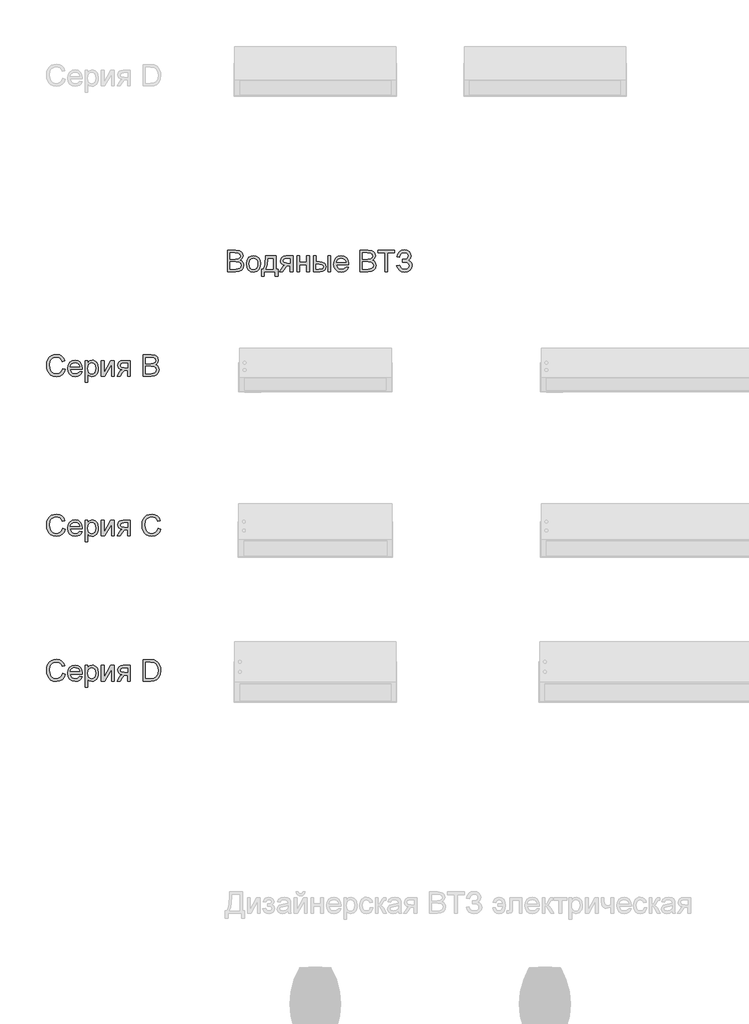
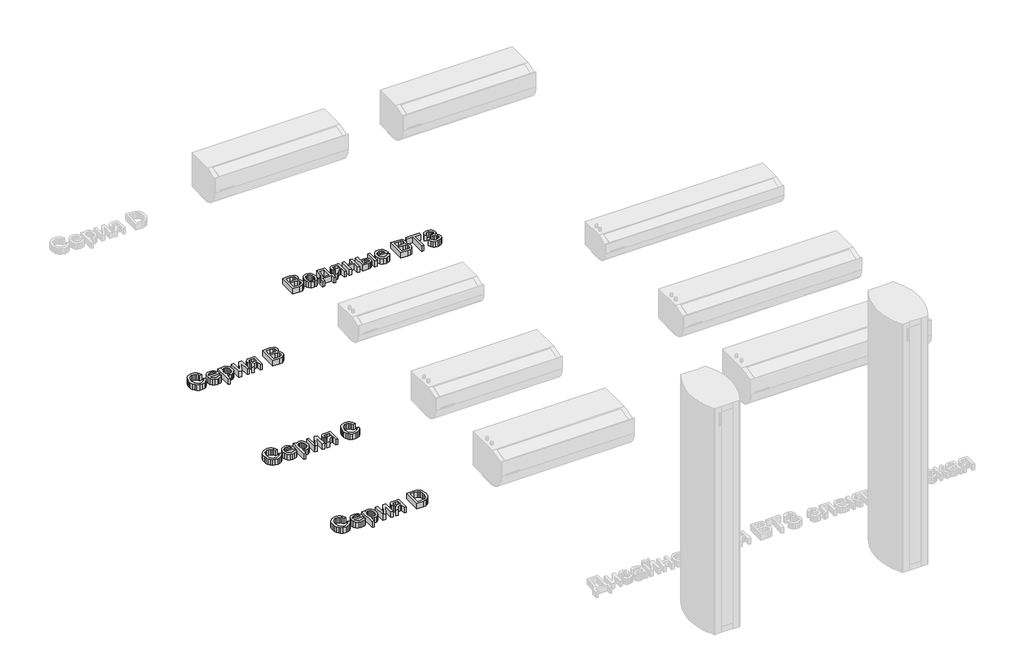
# One storey, part 5 of 6: 4 proxies.
"""IFC4 building model written with IfcOpenShell, lengths in millimetres."""

from ifc_helpers import new_model, si_unit, origin, origin_with_axes, place, context, project, spatial, polyline, outline, extrude, element, save

model = new_model("IFC4")

# Units and contexts
model_context = context("Model", 3, world=origin())
ifc_project = project(units=[si_unit("LENGTHUNIT", "METRE", prefix="MILLI")], contexts=[model_context])

# Site, building, storey
site = spatial("IfcSite", under=ifc_project)
building = spatial("IfcBuilding", under=site)
storey = spatial("IfcBuildingStorey", under=building, Name="Уровень 1", Elevation=0.0)

# Proxies
placement = place(None, origin())
element("IfcBuildingElementProxy", 1, Name="600 мм Arial", ObjectType="600 мм Arial", at=placement, inside=storey, context=model_context, shape_type="SweptSolid", body=[
    extrude(outline(polyline([(-13742.0854983, 3068.9151555), (-13742.0854983, 3216.6074632), (-13685.7273253, 3216.6074632), (-13658.1251618, 3212.2625113), (-13648.8493205, 3206.7501915), (-13641.8270849, 3198.9031363), (-13635.9316522, 3180.0089055), (-13640.8895849, 3162.7552997), (-13655.871556, 3149.6843863), (-13645.4103181, 3144.2216459), (-13637.6804503, 3135.9103478), (-13632.9073133, 3125.3003718), (-13631.3162676, 3112.9415978), (-13635.6612195, 3093.0918382), (-13646.4244407, 3078.9572228), (-13662.4881426, 3071.4572228), (-13686.1600176, 3068.9151555), (-13742.0854983, 3068.9151555)]), holes=[polyline([(-13723.6239599, 3156.6074632), (-13689.9100176, 3156.6074632), (-13670.2225176, 3158.1940016), (-13658.3775657, 3165.0269343), (-13654.3931907, 3177.0521747), (-13658.107133, 3189.0954439), (-13668.7441522, 3196.2168382), (-13692.4701137, 3198.1459247), (-13723.6239599, 3198.1459247), (-13723.6239599, 3156.6074632)]), polyline([(-13723.6239599, 3087.3766939), (-13685.763383, 3087.3766939), (-13672.0614599, 3088.0978478), (-13660.4689118, 3092.1182805), (-13652.7886233, 3100.3214055), (-13649.777806, 3112.7613093), (-13653.3114599, 3127.1122709), (-13664.7597772, 3135.6759728), (-13687.5662676, 3138.1459247), (-13723.6239599, 3138.1459247), (-13723.6239599, 3087.3766939)])]), origin_with_axes(), (0.0, 0.0, 1.0), 50.0),
    extrude(outline(polyline([(-13612.8547291, 3123.1459247), (-13608.8613397, 3149.2967661), (-13596.8811714, 3167.6771747), (-13582.0794887, 3176.6825834), (-13564.357133, 3179.6843863), (-13544.9626017, 3176.0290377), (-13529.4713157, 3165.062992), (-13519.3165681, 3147.6516338), (-13515.9316522, 3124.6603478), (-13517.4280464, 3106.0095064), (-13521.9172291, 3091.8117901), (-13529.2684911, 3081.1792781), (-13539.3511233, 3073.2240497), (-13551.3267844, 3068.2616098), (-13564.357133, 3066.6074632), (-13583.9860392, 3070.2492901), (-13599.4592964, 3081.1747709), (-13609.5058709, 3098.9512132), (-13612.8547291, 3123.1459247)]), holes=[polyline([(-13594.3931907, 3123.1819824), (-13592.2567724, 3106.4737492), (-13585.8475176, 3094.5702036), (-13576.2020849, 3087.4443021), (-13564.357133, 3085.0690016), (-13552.5662676, 3087.4578238), (-13542.9388637, 3094.6242901), (-13536.5296089, 3106.6855882), (-13534.3931907, 3123.7589055), (-13536.5431306, 3139.9803598), (-13542.9929503, 3151.7216459), (-13552.6338758, 3158.8475473), (-13564.357133, 3161.2228478), (-13576.2020849, 3158.8565617), (-13585.8475176, 3151.7577036), (-13592.2567724, 3139.8812012), (-13594.3931907, 3123.1819824)])]), origin_with_axes(), (0.0, 0.0, 1.0), 50.0),
    extrude(outline(polyline([(-13479.0085753, 3177.3766939), (-13409.777806, 3177.3766939), (-13409.777806, 3087.3766939), (-13395.9316522, 3087.3766939), (-13395.9316522, 3038.9151555), (-13414.3931907, 3038.9151555), (-13414.3931907, 3068.9151555), (-13490.5470368, 3068.9151555), (-13490.5470368, 3038.9151555), (-13509.0085753, 3038.9151555), (-13509.0085753, 3087.3766939), (-13497.4701137, 3087.3766939), (-13489.0821931, 3102.5344463), (-13483.2092964, 3122.5870305), (-13479.0085753, 3177.3766939)]), holes=[polyline([(-13462.8547291, 3158.9151555), (-13467.1816522, 3116.8538574), (-13476.700883, 3087.3766939), (-13428.2393445, 3087.3766939), (-13428.2393445, 3158.9151555), (-13462.8547291, 3158.9151555)])]), origin_with_axes(), (0.0, 0.0, 1.0), 50.0),
    extrude(outline(polyline([(-13292.0854983, 3177.3766939), (-13292.0854983, 3068.9151555), (-13310.5470368, 3068.9151555), (-13310.5470368, 3110.453617), (-13320.607133, 3110.453617), (-13334.309056, 3108.109867), (-13347.1816522, 3092.3526555), (-13361.8931907, 3068.9151555), (-13383.2393445, 3068.9151555), (-13364.7056907, 3098.5545786), (-13356.5205945, 3109.1915978), (-13348.9845368, 3113.9151555), (-13361.6047291, 3117.782343), (-13370.4749214, 3125.1290978), (-13375.7213157, 3134.9007324), (-13377.4701137, 3146.0425593), (-13375.0812916, 3158.6807805), (-13367.9148253, 3168.6867901), (-13356.2231185, 3175.204218), (-13340.2585753, 3177.3766939), (-13292.0854983, 3177.3766939)]), holes=[polyline([(-13310.5470368, 3158.9151555), (-13334.8859791, 3158.9151555), (-13347.4565921, 3157.8469463), (-13354.591508, 3154.6423189), (-13359.0085753, 3144.6363093), (-13357.3814719, 3137.6005521), (-13352.5001618, 3132.719242), (-13329.4412676, 3128.9151555), (-13310.5470368, 3128.9151555), (-13310.5470368, 3158.9151555)])]), origin_with_axes(), (0.0, 0.0, 1.0), 50.0),
    extrude(outline(polyline([(-13264.3931907, 3177.3766939), (-13245.9316522, 3177.3766939), (-13245.9316522, 3135.8382324), (-13197.4701137, 3135.8382324), (-13197.4701137, 3177.3766939), (-13179.0085753, 3177.3766939), (-13179.0085753, 3068.9151555), (-13197.4701137, 3068.9151555), (-13197.4701137, 3117.3766939), (-13245.9316522, 3117.3766939), (-13245.9316522, 3068.9151555), (-13264.3931907, 3068.9151555), (-13264.3931907, 3177.3766939)])), origin_with_axes(), (0.0, 0.0, 1.0), 50.0),
    extrude(outline(polyline([(-13151.3162676, 3177.3766939), (-13132.8547291, 3177.3766939), (-13132.8547291, 3138.1459247), (-13110.0302099, 3138.1459247), (-13090.302145, 3135.8337252), (-13075.685258, 3128.8971266), (-13066.6392844, 3117.8950233), (-13063.6239599, 3103.3863093), (-13066.1525056, 3090.1756723), (-13073.7381426, 3079.0293382), (-13086.8766642, 3071.4437012), (-13106.0638637, 3068.9151555), (-13151.3162676, 3068.9151555), (-13151.3162676, 3177.3766939)]), holes=[polyline([(-13132.8547291, 3087.3766939), (-13113.888383, 3087.3766939), (-13089.4052099, 3091.2528959), (-13083.9154262, 3096.2153358), (-13082.0854983, 3103.3502516), (-13087.512181, 3114.7084247), (-13096.2156065, 3118.4403959), (-13111.4725176, 3119.6843863), (-13132.8547291, 3119.6843863), (-13132.8547291, 3087.3766939)])]), origin_with_axes(), (0.0, 0.0, 1.0), 50.0),
    extrude(outline(polyline([(-13049.777806, 3177.3766939), (-13031.3162676, 3177.3766939), (-13031.3162676, 3068.9151555), (-13049.777806, 3068.9151555), (-13049.777806, 3177.3766939)])), origin_with_axes(), (0.0, 0.0, 1.0), 50.0),
    extrude(outline(polyline([(-12927.6864599, 3101.2228478), (-12909.5854983, 3098.9151555), (-12916.1074334, 3085.2763334), (-12926.5145849, 3075.0810209), (-12940.5725777, 3068.7258526), (-12958.0470368, 3066.6074632), (-12979.7086955, 3070.2628117), (-12996.3763637, 3081.2288574), (-13007.0043685, 3098.7934608), (-13010.5470368, 3122.2444824), (-13006.9683108, 3146.4842661), (-12996.232133, 3164.6122709), (-12979.7898253, 3175.9163574), (-12959.0927099, 3179.6843863), (-12939.0401258, 3175.9253718), (-12923.0169887, 3164.6483286), (-12912.5106786, 3146.5563814), (-12909.0085753, 3122.3526555), (-12909.1167483, 3117.3766939), (-12992.0854983, 3117.3766939), (-12988.8898854, 3103.5575834), (-12981.466508, 3093.3983286), (-12970.7528661, 3087.1513334), (-12957.6864599, 3085.0690016), (-12939.5854983, 3088.9271747), (-12927.6864599, 3101.2228478)]), holes=[polyline([(-12992.0854983, 3135.8382324), (-12927.4701137, 3135.8382324), (-12929.9671089, 3145.5918382), (-12934.8619407, 3152.5690016), (-12945.6251618, 3159.0593863), (-12959.1648253, 3161.2228478), (-12971.6092363, 3159.4965858), (-12981.8992003, 3154.3177997), (-12989.052145, 3146.2453838), (-12992.0854983, 3135.8382324)])]), origin_with_axes(), (0.0, 0.0, 1.0), 50.0),
    extrude(outline(polyline([(-12830.5470368, 3068.9151555), (-12830.5470368, 3216.6074632), (-12774.1888637, 3216.6074632), (-12746.5867003, 3212.2625113), (-12737.3108589, 3206.7501915), (-12730.2886233, 3198.9031363), (-12724.3931907, 3180.0089055), (-12729.3511233, 3162.7552997), (-12744.3330945, 3149.6843863), (-12733.8718565, 3144.2216459), (-12726.1419887, 3135.9103478), (-12721.3688517, 3125.3003718), (-12719.777806, 3112.9415978), (-12724.122758, 3093.0918382), (-12734.8859791, 3078.9572228), (-12750.949681, 3071.4572228), (-12774.621556, 3068.9151555), (-12830.5470368, 3068.9151555)]), holes=[polyline([(-12812.0854983, 3156.6074632), (-12778.371556, 3156.6074632), (-12758.684056, 3158.1940016), (-12746.8391041, 3165.0269343), (-12742.8547291, 3177.0521747), (-12746.5686714, 3189.0954439), (-12757.2056907, 3196.2168382), (-12780.9316522, 3198.1459247), (-12812.0854983, 3198.1459247), (-12812.0854983, 3156.6074632)]), polyline([(-12812.0854983, 3087.3766939), (-12774.2249214, 3087.3766939), (-12760.5229983, 3088.0978478), (-12748.9304503, 3092.1182805), (-12741.2501618, 3100.3214055), (-12738.2393445, 3112.7613093), (-12741.7729983, 3127.1122709), (-12753.2213157, 3135.6759728), (-12776.027806, 3138.1459247), (-12812.0854983, 3138.1459247), (-12812.0854983, 3087.3766939)])]), origin_with_axes(), (0.0, 0.0, 1.0), 50.0),
    extrude(outline(polyline([(-12657.4701137, 3068.9151555), (-12657.4701137, 3198.1459247), (-12705.9316522, 3198.1459247), (-12705.9316522, 3216.6074632), (-12590.5470368, 3216.6074632), (-12590.5470368, 3198.1459247), (-12639.0085753, 3198.1459247), (-12639.0085753, 3068.9151555), (-12657.4701137, 3068.9151555)])), origin_with_axes(), (0.0, 0.0, 1.0), 50.0),
    extrude(outline(polyline([(-12576.700883, 3110.453617), (-12558.2393445, 3115.0690016), (-12546.8992003, 3095.0750113), (-12536.1855584, 3087.570504), (-12522.4701137, 3085.0690016), (-12508.5743806, 3086.9485088), (-12497.9689118, 3092.5870305), (-12491.2486594, 3100.8848069), (-12489.0085753, 3110.7420786), (-12491.4559911, 3121.0681002), (-12498.7982387, 3129.0413574), (-12510.3592363, 3134.1390137), (-12525.4629022, 3135.8382324), (-12535.1624214, 3135.8382324), (-12535.1624214, 3154.2997709), (-12514.2669887, 3155.7961651), (-12501.4845368, 3163.4403959), (-12495.9316522, 3177.4127516), (-12497.7796089, 3186.1071627), (-12503.3234791, 3193.5846266), (-12512.0223974, 3198.7363694), (-12523.3354983, 3200.453617), (-12542.1756426, 3195.1711651), (-12552.9568926, 3181.1627516), (-12555.9316522, 3168.1459247), (-12574.3931907, 3172.7613093), (-12568.657764, 3192.953617), (-12558.2663878, 3207.3766939), (-12543.219062, 3216.0305401), (-12523.5157868, 3218.9151555), (-12504.5088758, 3215.9178598), (-12489.8919887, 3206.9259728), (-12480.5755825, 3193.9226675), (-12477.4701137, 3178.891117), (-12482.3018445, 3160.6188814), (-12496.7970368, 3146.9800593), (-12486.5296089, 3142.2519944), (-12478.0830945, 3134.2697228), (-12472.4310512, 3123.7183406), (-12470.5470368, 3111.2829439), (-12474.1618205, 3093.7994704), (-12485.0061714, 3079.4259728), (-12501.8180705, 3069.8120906), (-12523.3354983, 3066.6074632), (-12542.0584551, 3069.3478478), (-12557.1936714, 3077.5690016), (-12568.7411474, 3091.2709247), (-12576.700883, 3110.453617)])), origin_with_axes(), (0.0, 0.0, 1.0), 50.0),
])
element("IfcBuildingElementProxy", 2, Name="600 мм Arial", ObjectType="600 мм Arial", at=placement, inside=storey, context=model_context, shape_type="SweptSolid", body=[
    extrude(outline(polyline([(-14879.9613659, 2401.2261302), (-14861.4998274, 2396.4665148), (-14870.0184572, 2374.9535942), (-14883.3868467, 2359.2369475), (-14900.9469428, 2349.6230653), (-14922.0406928, 2346.4184379), (-14943.4544548, 2348.8433177), (-14960.460164, 2356.1179571), (-14973.4950197, 2367.9899523), (-14982.9962217, 2384.2068994), (-14988.7970029, 2403.2724043), (-14990.7305967, 2423.6900725), (-14988.5445991, 2445.2255293), (-14981.9866063, 2463.8222841), (-14971.3991664, 2478.8898922), (-14957.1248274, 2489.8379091), (-14940.1957409, 2496.5040749), (-14921.6440582, 2498.7261302), (-14901.4021712, 2495.8505293), (-14884.6668947, 2487.2237264), (-14871.9610654, 2473.3775725), (-14863.8075197, 2454.8439187), (-14882.2690582, 2450.4448802), (-14888.6692986, 2463.9079211), (-14897.413289, 2473.1431975), (-14908.6092024, 2478.4842432), (-14922.365212, 2480.2645918), (-14938.2215822, 2478.2904331), (-14951.2474236, 2472.3679571), (-14961.1317385, 2463.1191591), (-14967.5635294, 2451.1660341), (-14972.2690582, 2423.7261302), (-14966.6981447, 2391.9232456), (-14959.5767505, 2380.0467432), (-14949.3543947, 2371.604736), (-14937.0992866, 2366.5611663), (-14923.8796351, 2364.8799764), (-14908.4694789, 2367.1696398), (-14895.6284332, 2374.0386302), (-14885.9334212, 2385.4148321), (-14879.9613659, 2401.2261302)])), origin_with_axes(), (0.0, 0.0, 1.0), 50.0),
    extrude(outline(polyline([(-14762.4854044, 2381.0338225), (-14744.3844428, 2378.7261302), (-14750.9063779, 2365.0873081), (-14761.3135294, 2354.8919956), (-14775.3715221, 2348.5368273), (-14792.8459813, 2346.4184379), (-14814.5076399, 2350.0737865), (-14831.1753082, 2361.0398321), (-14841.803313, 2378.6044355), (-14845.3459813, 2402.0554571), (-14841.7672553, 2426.2952408), (-14831.0310774, 2444.4232456), (-14814.5887697, 2455.7273321), (-14793.8916544, 2459.495361), (-14773.8390702, 2455.7363466), (-14757.8159332, 2444.4593033), (-14747.3096231, 2426.3673562), (-14743.8075197, 2402.1636302), (-14743.9156928, 2397.1876687), (-14826.8844428, 2397.1876687), (-14823.6888298, 2383.3685581), (-14816.2654524, 2373.2093033), (-14805.5518106, 2366.9623081), (-14792.4854044, 2364.8799764), (-14774.3844428, 2368.7381494), (-14762.4854044, 2381.0338225)]), holes=[polyline([(-14826.8844428, 2415.6492071), (-14762.2690582, 2415.6492071), (-14764.7660534, 2425.4028129), (-14769.6608851, 2432.3799764), (-14780.4241063, 2438.870361), (-14793.9637697, 2441.0338225), (-14806.4081808, 2439.3075605), (-14816.6981447, 2434.1287744), (-14823.8510894, 2426.0563586), (-14826.8844428, 2415.6492071)])]), origin_with_axes(), (0.0, 0.0, 1.0), 50.0),
    extrude(outline(polyline([(-14725.3459813, 2307.1876687), (-14725.3459813, 2457.1876687), (-14706.8844428, 2457.1876687), (-14706.8844428, 2439.0867071), (-14694.1200197, 2454.3931975), (-14676.8844428, 2459.495361), (-14664.3994669, 2457.7105052), (-14653.4830005, 2452.3559379), (-14644.5947794, 2443.7561783), (-14638.194539, 2432.2357456), (-14633.038289, 2403.7862264), (-14634.4941183, 2387.9974644), (-14638.8616063, 2373.8763706), (-14646.0010294, 2362.1395918), (-14655.772664, 2353.5037744), (-14667.1533731, 2348.189772), (-14679.1200197, 2346.4184379), (-14695.1837217, 2351.1600244), (-14706.8844428, 2363.1492071), (-14706.8844428, 2307.1876687), (-14725.3459813, 2307.1876687)]), holes=[polyline([(-14706.8844428, 2402.0915148), (-14704.8877481, 2385.5410341), (-14698.897664, 2373.9665148), (-14690.0590221, 2367.151611), (-14679.5166544, 2364.8799764), (-14668.8030125, 2367.2327408), (-14659.7390101, 2374.2910341), (-14653.5596231, 2386.2892312), (-14651.4998274, 2403.4617071), (-14653.5100438, 2419.9220437), (-14659.5406928, 2431.6588225), (-14668.365813, 2438.6900725), (-14678.7594428, 2441.0338225), (-14689.1936375, 2438.5413345), (-14698.3567986, 2431.0638706), (-14704.7525318, 2418.8358057), (-14706.8844428, 2402.0915148)])]), origin_with_axes(), (0.0, 0.0, 1.0), 50.0),
    extrude(outline(polyline([(-14612.2690582, 2457.1876687), (-14593.8075197, 2457.1876687), (-14593.8075197, 2374.4713225), (-14548.4469428, 2457.1876687), (-14524.5767505, 2457.1876687), (-14524.5767505, 2348.7261302), (-14543.038289, 2348.7261302), (-14543.038289, 2430.9376687), (-14588.1104044, 2348.7261302), (-14612.2690582, 2348.7261302), (-14612.2690582, 2457.1876687)])), origin_with_axes(), (0.0, 0.0, 1.0), 50.0),
    extrude(outline(polyline([(-14413.8075197, 2457.1876687), (-14413.8075197, 2348.7261302), (-14432.2690582, 2348.7261302), (-14432.2690582, 2390.2645918), (-14442.3291544, 2390.2645918), (-14456.0310774, 2387.9208418), (-14468.9036736, 2372.1636302), (-14483.615212, 2348.7261302), (-14504.9613659, 2348.7261302), (-14486.427712, 2378.3655533), (-14478.2426159, 2389.0025725), (-14470.7065582, 2393.7261302), (-14483.3267505, 2397.5933177), (-14492.1969428, 2404.9400725), (-14497.443337, 2414.7117071), (-14499.1921351, 2425.8535341), (-14496.803313, 2438.4917552), (-14489.6368467, 2448.4977648), (-14477.9451399, 2455.0151927), (-14461.9805967, 2457.1876687), (-14413.8075197, 2457.1876687)]), holes=[polyline([(-14432.2690582, 2438.7261302), (-14456.6080005, 2438.7261302), (-14469.1786135, 2437.6579211), (-14476.3135294, 2434.4532937), (-14480.7305967, 2424.4472841), (-14479.1034933, 2417.4115269), (-14474.2221832, 2412.5302168), (-14451.163289, 2408.7261302), (-14432.2690582, 2408.7261302), (-14432.2690582, 2438.7261302)])]), origin_with_axes(), (0.0, 0.0, 1.0), 50.0),
    extrude(outline(polyline([(-14326.115212, 2348.7261302), (-14326.115212, 2496.4184379), (-14269.757039, 2496.4184379), (-14242.1548755, 2492.073486), (-14232.8790342, 2486.5611663), (-14225.8567986, 2478.714111), (-14219.9613659, 2459.8198802), (-14224.9192986, 2442.5662744), (-14239.9012697, 2429.495361), (-14229.4400318, 2424.0326206), (-14221.710164, 2415.7213225), (-14216.9370269, 2405.1113466), (-14215.3459813, 2392.7525725), (-14219.6909332, 2372.9028129), (-14230.4541544, 2358.7681975), (-14246.5178563, 2351.2681975), (-14270.1897313, 2348.7261302), (-14326.115212, 2348.7261302)]), holes=[polyline([(-14307.6536736, 2367.1876687), (-14269.7930967, 2367.1876687), (-14256.0911736, 2367.9088225), (-14244.4986255, 2371.9292552), (-14236.818337, 2380.1323802), (-14233.8075197, 2392.5722841), (-14237.3411736, 2406.9232456), (-14248.7894909, 2415.4869475), (-14271.5959813, 2417.9568994), (-14307.6536736, 2417.9568994), (-14307.6536736, 2367.1876687)]), polyline([(-14307.6536736, 2436.4184379), (-14273.9397313, 2436.4184379), (-14254.2522313, 2438.0049764), (-14242.4072794, 2444.8379091), (-14238.4229044, 2456.8631494), (-14242.1368467, 2468.9064187), (-14252.7738659, 2476.0278129), (-14276.4998274, 2477.9568994), (-14307.6536736, 2477.9568994), (-14307.6536736, 2436.4184379)])]), origin_with_axes(), (0.0, 0.0, 1.0), 50.0),
])
element("IfcBuildingElementProxy", 3, Name="600 мм Arial", ObjectType="600 мм Arial", at=placement, inside=storey, context=model_context, shape_type="SweptSolid", body=[
    extrude(outline(polyline([(-14879.9613659, 301.2261302), (-14861.4998274, 296.4665148), (-14870.0184572, 274.9535942), (-14883.3868467, 259.2369475), (-14900.9469428, 249.6230653), (-14922.0406928, 246.4184379), (-14943.4544548, 248.8433177), (-14960.460164, 256.1179571), (-14973.4950197, 267.9899523), (-14982.9962217, 284.2068994), (-14988.7970029, 303.2724043), (-14990.7305967, 323.6900725), (-14988.5445991, 345.2255293), (-14981.9866063, 363.8222841), (-14971.3991664, 378.8898922), (-14957.1248274, 389.8379091), (-14940.1957409, 396.5040749), (-14921.6440582, 398.7261302), (-14901.4021712, 395.8505293), (-14884.6668947, 387.2237264), (-14871.9610654, 373.3775725), (-14863.8075197, 354.8439187), (-14882.2690582, 350.4448802), (-14888.6692986, 363.9079211), (-14897.413289, 373.1431975), (-14908.6092024, 378.4842432), (-14922.365212, 380.2645918), (-14938.2215822, 378.2904331), (-14951.2474236, 372.3679571), (-14961.1317385, 363.1191591), (-14967.5635294, 351.1660341), (-14972.2690582, 323.7261302), (-14966.6981447, 291.9232456), (-14959.5767505, 280.0467432), (-14949.3543947, 271.604736), (-14937.0992866, 266.5611663), (-14923.8796351, 264.8799764), (-14908.4694789, 267.1696398), (-14895.6284332, 274.0386302), (-14885.9334212, 285.4148321), (-14879.9613659, 301.2261302)])), origin_with_axes(), (0.0, 0.0, 1.0), 50.0),
    extrude(outline(polyline([(-14762.4854044, 281.0338225), (-14744.3844428, 278.7261302), (-14750.9063779, 265.0873081), (-14761.3135294, 254.8919956), (-14775.3715221, 248.5368273), (-14792.8459813, 246.4184379), (-14814.5076399, 250.0737865), (-14831.1753082, 261.0398321), (-14841.803313, 278.6044355), (-14845.3459813, 302.0554571), (-14841.7672553, 326.2952408), (-14831.0310774, 344.4232456), (-14814.5887697, 355.7273321), (-14793.8916544, 359.495361), (-14773.8390702, 355.7363466), (-14757.8159332, 344.4593033), (-14747.3096231, 326.3673562), (-14743.8075197, 302.1636302), (-14743.9156928, 297.1876687), (-14826.8844428, 297.1876687), (-14823.6888298, 283.3685581), (-14816.2654524, 273.2093033), (-14805.5518106, 266.9623081), (-14792.4854044, 264.8799764), (-14774.3844428, 268.7381494), (-14762.4854044, 281.0338225)]), holes=[polyline([(-14826.8844428, 315.6492071), (-14762.2690582, 315.6492071), (-14764.7660534, 325.4028129), (-14769.6608851, 332.3799764), (-14780.4241063, 338.870361), (-14793.9637697, 341.0338225), (-14806.4081808, 339.3075605), (-14816.6981447, 334.1287744), (-14823.8510894, 326.0563586), (-14826.8844428, 315.6492071)])]), origin_with_axes(), (0.0, 0.0, 1.0), 50.0),
    extrude(outline(polyline([(-14725.3459813, 207.1876687), (-14725.3459813, 357.1876687), (-14706.8844428, 357.1876687), (-14706.8844428, 339.0867071), (-14694.1200197, 354.3931975), (-14676.8844428, 359.495361), (-14664.3994669, 357.7105052), (-14653.4830005, 352.3559379), (-14644.5947794, 343.7561783), (-14638.194539, 332.2357456), (-14633.038289, 303.7862264), (-14634.4941183, 287.9974644), (-14638.8616063, 273.8763706), (-14646.0010294, 262.1395918), (-14655.772664, 253.5037744), (-14667.1533731, 248.189772), (-14679.1200197, 246.4184379), (-14695.1837217, 251.1600244), (-14706.8844428, 263.1492071), (-14706.8844428, 207.1876687), (-14725.3459813, 207.1876687)]), holes=[polyline([(-14706.8844428, 302.0915148), (-14704.8877481, 285.5410341), (-14698.897664, 273.9665148), (-14690.0590221, 267.151611), (-14679.5166544, 264.8799764), (-14668.8030125, 267.2327408), (-14659.7390101, 274.2910341), (-14653.5596231, 286.2892312), (-14651.4998274, 303.4617071), (-14653.5100438, 319.9220437), (-14659.5406928, 331.6588225), (-14668.365813, 338.6900725), (-14678.7594428, 341.0338225), (-14689.1936375, 338.5413345), (-14698.3567986, 331.0638706), (-14704.7525318, 318.8358057), (-14706.8844428, 302.0915148)])]), origin_with_axes(), (0.0, 0.0, 1.0), 50.0),
    extrude(outline(polyline([(-14612.2690582, 357.1876687), (-14593.8075197, 357.1876687), (-14593.8075197, 274.4713225), (-14548.4469428, 357.1876687), (-14524.5767505, 357.1876687), (-14524.5767505, 248.7261302), (-14543.038289, 248.7261302), (-14543.038289, 330.9376687), (-14588.1104044, 248.7261302), (-14612.2690582, 248.7261302), (-14612.2690582, 357.1876687)])), origin_with_axes(), (0.0, 0.0, 1.0), 50.0),
    extrude(outline(polyline([(-14413.8075197, 357.1876687), (-14413.8075197, 248.7261302), (-14432.2690582, 248.7261302), (-14432.2690582, 290.2645918), (-14442.3291544, 290.2645918), (-14456.0310774, 287.9208418), (-14468.9036736, 272.1636302), (-14483.615212, 248.7261302), (-14504.9613659, 248.7261302), (-14486.427712, 278.3655533), (-14478.2426159, 289.0025725), (-14470.7065582, 293.7261302), (-14483.3267505, 297.5933177), (-14492.1969428, 304.9400725), (-14497.443337, 314.7117071), (-14499.1921351, 325.8535341), (-14496.803313, 338.4917552), (-14489.6368467, 348.4977648), (-14477.9451399, 355.0151927), (-14461.9805967, 357.1876687), (-14413.8075197, 357.1876687)]), holes=[polyline([(-14432.2690582, 338.7261302), (-14456.6080005, 338.7261302), (-14469.1786135, 337.6579211), (-14476.3135294, 334.4532937), (-14480.7305967, 324.4472841), (-14479.1034933, 317.4115269), (-14474.2221832, 312.5302168), (-14451.163289, 308.7261302), (-14432.2690582, 308.7261302), (-14432.2690582, 338.7261302)])]), origin_with_axes(), (0.0, 0.0, 1.0), 50.0),
    extrude(outline(polyline([(-14326.115212, 248.7261302), (-14326.115212, 396.4184379), (-14275.1656928, 396.4184379), (-14248.8075197, 394.2910341), (-14227.100789, 383.7261302), (-14216.8874476, 372.4761302), (-14209.6128082, 358.4857456), (-14205.2588419, 342.0254091), (-14203.8075197, 323.3655533), (-14207.7378082, 293.5638706), (-14217.833962, 272.0554571), (-14231.319539, 258.6600244), (-14248.9697794, 251.2501687), (-14272.7137697, 248.7261302), (-14326.115212, 248.7261302)]), holes=[polyline([(-14307.6536736, 267.1876687), (-14274.9854044, 267.1876687), (-14251.2233851, 269.8559379), (-14237.521462, 277.3919956), (-14226.2894909, 295.7273321), (-14222.2690582, 323.6540148), (-14224.2387096, 343.7742071), (-14230.147664, 358.6299764), (-14238.8781327, 368.8343033), (-14249.3123274, 375.0001687), (-14275.490212, 377.9568994), (-14307.6536736, 377.9568994), (-14307.6536736, 267.1876687)])]), origin_with_axes(), (0.0, 0.0, 1.0), 50.0),
])
element("IfcBuildingElementProxy", 4, Name="600 мм Arial", ObjectType="600 мм Arial", at=placement, inside=storey, context=model_context, shape_type="SweptSolid", body=[
    extrude(outline(polyline([(-14879.9613659, 1301.2261302), (-14861.4998274, 1296.4665148), (-14870.0184572, 1274.9535942), (-14883.3868467, 1259.2369475), (-14900.9469428, 1249.6230653), (-14922.0406928, 1246.4184379), (-14943.4544548, 1248.8433177), (-14960.460164, 1256.1179571), (-14973.4950197, 1267.9899523), (-14982.9962217, 1284.2068994), (-14988.7970029, 1303.2724043), (-14990.7305967, 1323.6900725), (-14988.5445991, 1345.2255293), (-14981.9866063, 1363.8222841), (-14971.3991664, 1378.8898922), (-14957.1248274, 1389.8379091), (-14940.1957409, 1396.5040749), (-14921.6440582, 1398.7261302), (-14901.4021712, 1395.8505293), (-14884.6668947, 1387.2237264), (-14871.9610654, 1373.3775725), (-14863.8075197, 1354.8439187), (-14882.2690582, 1350.4448802), (-14888.6692986, 1363.9079211), (-14897.413289, 1373.1431975), (-14908.6092024, 1378.4842432), (-14922.365212, 1380.2645918), (-14938.2215822, 1378.2904331), (-14951.2474236, 1372.3679571), (-14961.1317385, 1363.1191591), (-14967.5635294, 1351.1660341), (-14972.2690582, 1323.7261302), (-14966.6981447, 1291.9232456), (-14959.5767505, 1280.0467432), (-14949.3543947, 1271.604736), (-14937.0992866, 1266.5611663), (-14923.8796351, 1264.8799764), (-14908.4694789, 1267.1696398), (-14895.6284332, 1274.0386302), (-14885.9334212, 1285.4148321), (-14879.9613659, 1301.2261302)])), origin_with_axes(), (0.0, 0.0, 1.0), 50.0),
    extrude(outline(polyline([(-14762.4854044, 1281.0338225), (-14744.3844428, 1278.7261302), (-14750.9063779, 1265.0873081), (-14761.3135294, 1254.8919956), (-14775.3715221, 1248.5368273), (-14792.8459813, 1246.4184379), (-14814.5076399, 1250.0737865), (-14831.1753082, 1261.0398321), (-14841.803313, 1278.6044355), (-14845.3459813, 1302.0554571), (-14841.7672553, 1326.2952408), (-14831.0310774, 1344.4232456), (-14814.5887697, 1355.7273321), (-14793.8916544, 1359.495361), (-14773.8390702, 1355.7363466), (-14757.8159332, 1344.4593033), (-14747.3096231, 1326.3673562), (-14743.8075197, 1302.1636302), (-14743.9156928, 1297.1876687), (-14826.8844428, 1297.1876687), (-14823.6888298, 1283.3685581), (-14816.2654524, 1273.2093033), (-14805.5518106, 1266.9623081), (-14792.4854044, 1264.8799764), (-14774.3844428, 1268.7381494), (-14762.4854044, 1281.0338225)]), holes=[polyline([(-14826.8844428, 1315.6492071), (-14762.2690582, 1315.6492071), (-14764.7660534, 1325.4028129), (-14769.6608851, 1332.3799764), (-14780.4241063, 1338.870361), (-14793.9637697, 1341.0338225), (-14806.4081808, 1339.3075605), (-14816.6981447, 1334.1287744), (-14823.8510894, 1326.0563586), (-14826.8844428, 1315.6492071)])]), origin_with_axes(), (0.0, 0.0, 1.0), 50.0),
    extrude(outline(polyline([(-14725.3459813, 1207.1876687), (-14725.3459813, 1357.1876687), (-14706.8844428, 1357.1876687), (-14706.8844428, 1339.0867071), (-14694.1200197, 1354.3931975), (-14676.8844428, 1359.495361), (-14664.3994669, 1357.7105052), (-14653.4830005, 1352.3559379), (-14644.5947794, 1343.7561783), (-14638.194539, 1332.2357456), (-14633.038289, 1303.7862264), (-14634.4941183, 1287.9974644), (-14638.8616063, 1273.8763706), (-14646.0010294, 1262.1395918), (-14655.772664, 1253.5037744), (-14667.1533731, 1248.189772), (-14679.1200197, 1246.4184379), (-14695.1837217, 1251.1600244), (-14706.8844428, 1263.1492071), (-14706.8844428, 1207.1876687), (-14725.3459813, 1207.1876687)]), holes=[polyline([(-14706.8844428, 1302.0915148), (-14704.8877481, 1285.5410341), (-14698.897664, 1273.9665148), (-14690.0590221, 1267.151611), (-14679.5166544, 1264.8799764), (-14668.8030125, 1267.2327408), (-14659.7390101, 1274.2910341), (-14653.5596231, 1286.2892312), (-14651.4998274, 1303.4617071), (-14653.5100438, 1319.9220437), (-14659.5406928, 1331.6588225), (-14668.365813, 1338.6900725), (-14678.7594428, 1341.0338225), (-14689.1936375, 1338.5413345), (-14698.3567986, 1331.0638706), (-14704.7525318, 1318.8358057), (-14706.8844428, 1302.0915148)])]), origin_with_axes(), (0.0, 0.0, 1.0), 50.0),
    extrude(outline(polyline([(-14612.2690582, 1357.1876687), (-14593.8075197, 1357.1876687), (-14593.8075197, 1274.4713225), (-14548.4469428, 1357.1876687), (-14524.5767505, 1357.1876687), (-14524.5767505, 1248.7261302), (-14543.038289, 1248.7261302), (-14543.038289, 1330.9376687), (-14588.1104044, 1248.7261302), (-14612.2690582, 1248.7261302), (-14612.2690582, 1357.1876687)])), origin_with_axes(), (0.0, 0.0, 1.0), 50.0),
    extrude(outline(polyline([(-14413.8075197, 1357.1876687), (-14413.8075197, 1248.7261302), (-14432.2690582, 1248.7261302), (-14432.2690582, 1290.2645918), (-14442.3291544, 1290.2645918), (-14456.0310774, 1287.9208418), (-14468.9036736, 1272.1636302), (-14483.615212, 1248.7261302), (-14504.9613659, 1248.7261302), (-14486.427712, 1278.3655533), (-14478.2426159, 1289.0025725), (-14470.7065582, 1293.7261302), (-14483.3267505, 1297.5933177), (-14492.1969428, 1304.9400725), (-14497.443337, 1314.7117071), (-14499.1921351, 1325.8535341), (-14496.803313, 1338.4917552), (-14489.6368467, 1348.4977648), (-14477.9451399, 1355.0151927), (-14461.9805967, 1357.1876687), (-14413.8075197, 1357.1876687)]), holes=[polyline([(-14432.2690582, 1338.7261302), (-14456.6080005, 1338.7261302), (-14469.1786135, 1337.6579211), (-14476.3135294, 1334.4532937), (-14480.7305967, 1324.4472841), (-14479.1034933, 1317.4115269), (-14474.2221832, 1312.5302168), (-14451.163289, 1308.7261302), (-14432.2690582, 1308.7261302), (-14432.2690582, 1338.7261302)])]), origin_with_axes(), (0.0, 0.0, 1.0), 50.0),
    extrude(outline(polyline([(-14222.2690582, 1301.2261302), (-14203.8075197, 1296.4665148), (-14212.3261495, 1274.9535942), (-14225.694539, 1259.2369475), (-14243.2546351, 1249.6230653), (-14264.3483851, 1246.4184379), (-14285.7621471, 1248.8433177), (-14302.7678563, 1256.1179571), (-14315.802712, 1267.9899523), (-14325.303914, 1284.2068994), (-14331.1046952, 1303.2724043), (-14333.038289, 1323.6900725), (-14330.8522914, 1345.2255293), (-14324.2942986, 1363.8222841), (-14313.7068587, 1378.8898922), (-14299.4325197, 1389.8379091), (-14282.5034332, 1396.5040749), (-14263.9517505, 1398.7261302), (-14243.7098635, 1395.8505293), (-14226.974587, 1387.2237264), (-14214.2687577, 1373.3775725), (-14206.115212, 1354.8439187), (-14224.5767505, 1350.4448802), (-14230.9769909, 1363.9079211), (-14239.7209813, 1373.1431975), (-14250.9168947, 1378.4842432), (-14264.6729044, 1380.2645918), (-14280.5292745, 1378.2904331), (-14293.5551159, 1372.3679571), (-14303.4394308, 1363.1191591), (-14309.8712217, 1351.1660341), (-14314.5767505, 1323.7261302), (-14309.005837, 1291.9232456), (-14301.8844428, 1280.0467432), (-14291.662087, 1271.604736), (-14279.4069789, 1266.5611663), (-14266.1873274, 1264.8799764), (-14250.7771712, 1267.1696398), (-14237.9361255, 1274.0386302), (-14228.2411135, 1285.4148321), (-14222.2690582, 1301.2261302)])), origin_with_axes(), (0.0, 0.0, 1.0), 50.0),
])

save(model, "model.ifc")
